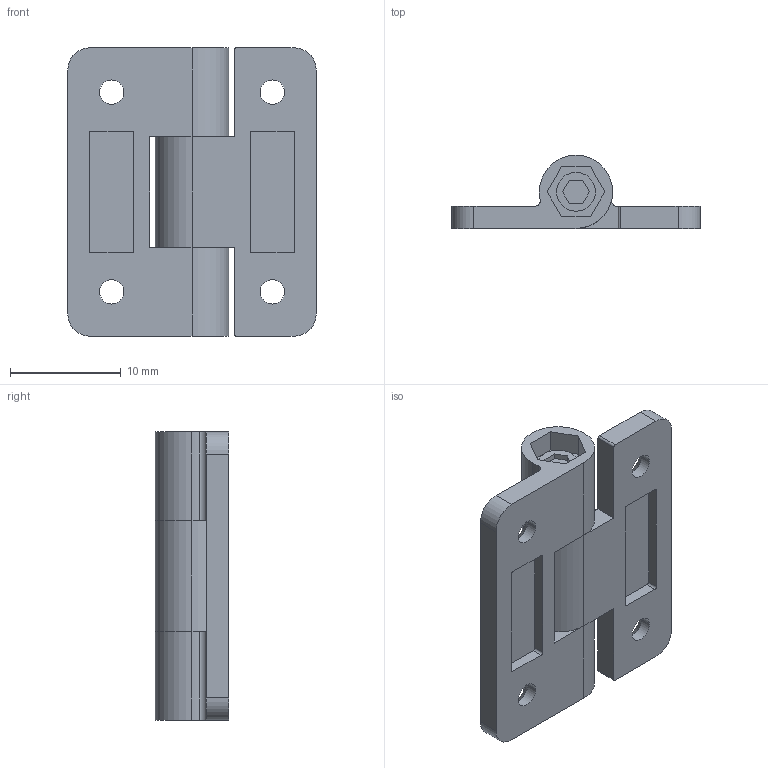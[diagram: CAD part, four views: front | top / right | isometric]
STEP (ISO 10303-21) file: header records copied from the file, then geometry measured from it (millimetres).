
FILE_DESCRIPTION (( 'STEP AP214' ), '1' );
FILE_NAME ('XG11-091-1.STEP', '2025-07-04T06:03:13', ( '微软用户' ), ( '微软中国' ), 'SwSTEP 2.0', 'SolidWorks 2024', '' );
FILE_SCHEMA (( 'AUTOMOTIVE_DESIGN' ));
Length unit declared in the file: millimetre
Products named in the file (3): XG11-091-1; XG11-091-1PART2; XG11-091-1PART1
Assembly tree (2 placements, depth 2):
  XG11-091-1
    XG11-091-1PART1
    XG11-091-1PART2
Bounding box: 22.4 x 6.6 x 26 mm (x, y, z)
Volume: 1537.9 mm3; surface area: 1896.4 mm2
Topology: 2 solids, 2 shells, 103 faces, 273 edges, 182 vertices
Faces by surface type: plane 57, cylinder 38, cone 8
Entity records: 3323 total; most frequent: DIRECTION 581, CARTESIAN_POINT 563, ORIENTED_EDGE 546, EDGE_CURVE 273, AXIS2_PLACEMENT_3D 200, VERTEX_POINT 182, VECTOR 181, LINE 181
